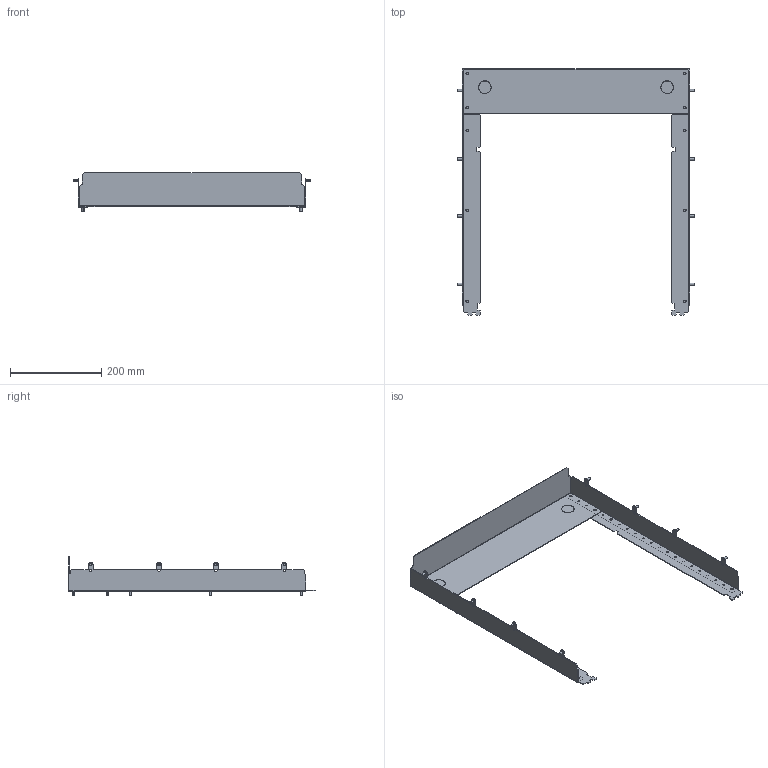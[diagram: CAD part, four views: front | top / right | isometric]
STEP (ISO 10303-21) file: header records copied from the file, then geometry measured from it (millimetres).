
FILE_DESCRIPTION(('CAx-IF Rec.Pracs.---Model Styling and Organization---1.2---2011-12-15','CAx-IF Rec.Pracs.---Geometric and Assembly Validation Properties---4.1---2014-06-16','CAx-IF Rec.Pracs.---PMI Polyline Presentation---2.0---2013-05-24'),'2;1');
FILE_NAME('R5FRC7V61525F.stp','2021-07-29T02:05:59+03:00',(''),(''),'STEP Interface 4.4 by CT CoreTechnologie','3D_Evolution4.4 by CT CoreTechnologie','');
FILE_SCHEMA(('AUTOMOTIVE_DESIGN { 1 0 10303 214 1 1 1 1 }'));
Length unit declared in the file: millimetre
Products named in the file (1): R5FRC6V61525F
Bounding box: 520 x 540 x 85 mm (x, y, z)
Surface area: 384568.6 mm2 (no closed solid volume)
Topology: 0 solids, 23 shells, 397 faces, 1039 edges, 688 vertices
Faces by surface type: cylinder 202, plane 195
Entity records: 12591 total; most frequent: DIRECTION 2239, CARTESIAN_POINT 2125, ORIENTED_EDGE 2078, EDGE_CURVE 1039, AXIS2_PLACEMENT_3D 802, VERTEX_POINT 688, VECTOR 635, LINE 635
